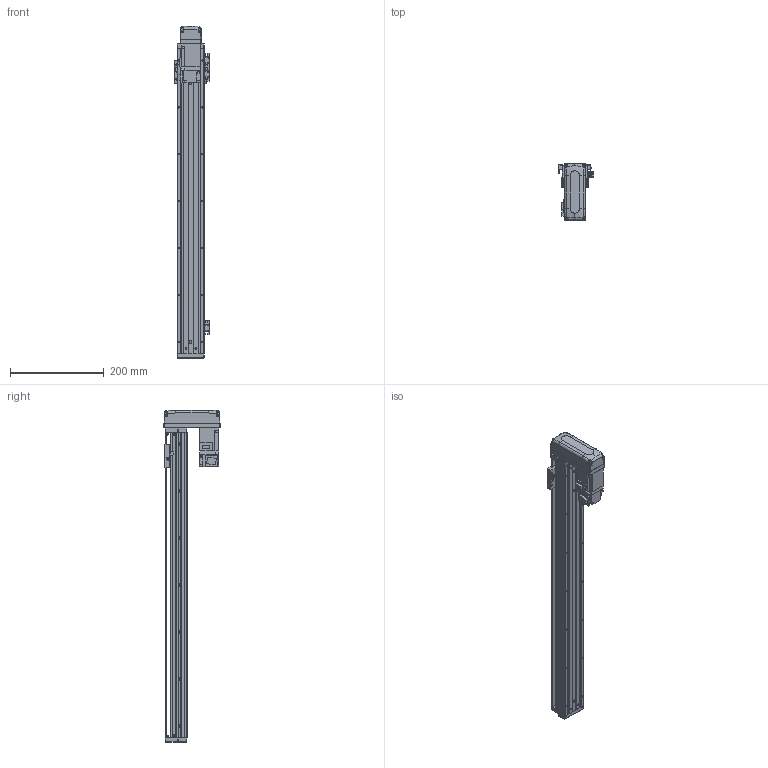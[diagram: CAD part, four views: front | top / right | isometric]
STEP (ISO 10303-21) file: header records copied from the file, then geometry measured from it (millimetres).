
FILE_DESCRIPTION (( 'STEP AP203' ), '1' );
FILE_NAME ('KTHA50-550-BM-M10-C4L.step', '2022-03-19T07:12:02', ( '微软用户' ), ( '微软中国' ), 'SwSTEP 2.0', 'SolidWorks 2020', '' );
FILE_SCHEMA (( 'CONFIG_CONTROL_DESIGN' ));
Length unit declared in the file: millimetre
Products named in the file (18): EE_SX911P_R; GBT 70.3-M3℅6; GBT77-2000 M3×3; HG-KR13（三菱）; KTHA50-001_650; GBT 70.1-M3℅6; CTHA50-015-2_CTHA60-015-2; KTHA50-002; CTHA60-017; CTHA60-033; KTHA50-004; GBT 70.1-M4×12; GBT 70.1-M3×15; KTHA50-005; CTHA60-016; KTHA50-550-BM-M10-C4L; GB¨uT 70.2-M3¡Á6_M3¡Á6; CTHA60-021
Assembly tree (53 placements, depth 2):
  KTHA50-550-BM-M10-C4L
    KTHA50-001_650
    KTHA50-002
    KTHA50-004
    KTHA50-005
    GB¨uT 70.2-M3¡Á6_M3¡Á6  x6
    EE_SX911P_R  x3
    GBT77-2000 M3×3  x6
    GBT 70.1-M3℅6  x6
    CTHA60-017  x3
    GBT 70.1-M4×12  x10
    CTHA60-016  x2
    CTHA60-021  x2
    GBT 70.3-M3℅6  x4
    HG-KR13（三菱）
    CTHA50-015-2_CTHA60-015-2
    CTHA60-033
    GBT 70.1-M3×15  x4
Bounding box: 75.22 x 120 x 707 mm (x, y, z)
Volume: 1422466.2 mm3; surface area: 348308 mm2
Topology: 56 solids, 56 shells, 2283 faces, 5407 edges, 3316 vertices
Faces by surface type: plane 1276, cylinder 556, cone 309, torus 100, bspline 26, sphere 16
Entity records: 38881 total; most frequent: CARTESIAN_POINT 7346, DIRECTION 6075, ORIENTED_EDGE 5826, EDGE_CURVE 2913, AXIS2_PLACEMENT_3D 2061, VECTOR 1953, LINE 1953, VERTEX_POINT 1830
